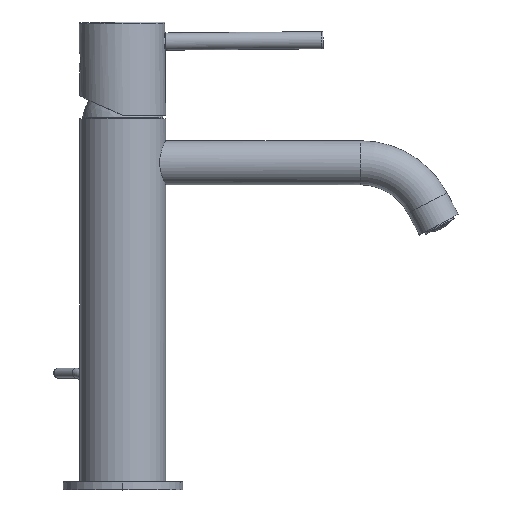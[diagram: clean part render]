
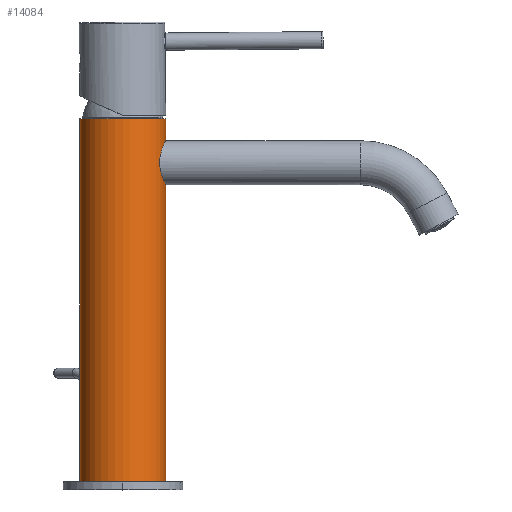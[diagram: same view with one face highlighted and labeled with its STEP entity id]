
A CAD part, top view. The second image highlights one B-rep face of the part: STEP entity #14084.
In plain terms, the highlighted cylindrical face has radius 17.5 mm (diameter 35 mm), a partial arc.
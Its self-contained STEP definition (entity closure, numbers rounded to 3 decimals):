
#1=CARTESIAN_POINT('',(0.,2.,0.));
#2=DIRECTION('',(0.,1.,0.));
#3=DIRECTION('',(-1.,0.,0.));
#4=AXIS2_PLACEMENT_3D('',#1,#2,#3);
#6=CARTESIAN_POINT('',(0.,150.,0.));
#7=DIRECTION('',(0.,1.,0.));
#8=DIRECTION('',(-1.,0.,0.));
#9=AXIS2_PLACEMENT_3D('',#6,#7,#8);
#11=CARTESIAN_POINT('',(17.5,141.,0.));
#12=CARTESIAN_POINT('',(17.5,141.,0.132));
#13=CARTESIAN_POINT('',(17.497,140.994,0.397));
#14=CARTESIAN_POINT('',(17.483,140.968,0.795));
#15=CARTESIAN_POINT('',(17.461,140.924,1.192));
#16=CARTESIAN_POINT('',(17.429,140.862,1.588));
#17=CARTESIAN_POINT('',(17.389,140.782,1.983));
#18=CARTESIAN_POINT('',(17.339,140.684,2.377));
#19=CARTESIAN_POINT('',(17.281,140.567,2.768));
#20=CARTESIAN_POINT('',(17.214,140.431,3.157));
#21=CARTESIAN_POINT('',(17.139,140.277,3.542));
#22=CARTESIAN_POINT('',(17.056,140.104,3.923));
#23=CARTESIAN_POINT('',(16.965,139.911,4.299));
#24=CARTESIAN_POINT('',(16.867,139.698,4.669));
#25=CARTESIAN_POINT('',(16.763,139.467,5.031));
#26=CARTESIAN_POINT('',(16.652,139.216,5.385));
#27=CARTESIAN_POINT('',(16.537,138.946,5.729));
#28=CARTESIAN_POINT('',(16.418,138.658,6.061));
#29=CARTESIAN_POINT('',(16.297,138.354,6.379));
#30=CARTESIAN_POINT('',(16.175,138.033,6.683));
#31=CARTESIAN_POINT('',(16.053,137.699,6.971));
#32=CARTESIAN_POINT('',(15.933,137.351,7.241));
#33=CARTESIAN_POINT('',(15.816,136.993,7.492));
#34=CARTESIAN_POINT('',(15.704,136.626,7.724));
#35=CARTESIAN_POINT('',(15.598,136.252,7.936));
#36=CARTESIAN_POINT('',(15.498,135.873,8.128));
#37=CARTESIAN_POINT('',(15.407,135.49,8.299));
#38=CARTESIAN_POINT('',(15.324,135.103,8.451));
#39=CARTESIAN_POINT('',(15.251,134.716,8.584));
#40=CARTESIAN_POINT('',(15.186,134.328,8.697));
#41=CARTESIAN_POINT('',(15.131,133.939,8.792));
#42=CARTESIAN_POINT('',(15.087,133.551,8.868));
#43=CARTESIAN_POINT('',(15.052,133.163,8.927));
#44=CARTESIAN_POINT('',(15.027,132.775,8.969));
#45=CARTESIAN_POINT('',(15.012,132.387,8.994));
#46=CARTESIAN_POINT('',(15.007,132.,9.003));
#47=CARTESIAN_POINT('',(15.012,131.613,8.994));
#48=CARTESIAN_POINT('',(15.027,131.225,8.969));
#49=CARTESIAN_POINT('',(15.052,130.837,8.927));
#50=CARTESIAN_POINT('',(15.087,130.449,8.868));
#51=CARTESIAN_POINT('',(15.131,130.061,8.792));
#52=CARTESIAN_POINT('',(15.186,129.672,8.697));
#53=CARTESIAN_POINT('',(15.251,129.284,8.584));
#54=CARTESIAN_POINT('',(15.324,128.897,8.451));
#55=CARTESIAN_POINT('',(15.407,128.51,8.299));
#56=CARTESIAN_POINT('',(15.498,128.127,8.128));
#57=CARTESIAN_POINT('',(15.598,127.748,7.936));
#58=CARTESIAN_POINT('',(15.704,127.374,7.724));
#59=CARTESIAN_POINT('',(15.816,127.007,7.492));
#60=CARTESIAN_POINT('',(15.933,126.649,7.241));
#61=CARTESIAN_POINT('',(16.053,126.301,6.971));
#62=CARTESIAN_POINT('',(16.175,125.967,6.683));
#63=CARTESIAN_POINT('',(16.297,125.646,6.379));
#64=CARTESIAN_POINT('',(16.418,125.342,6.061));
#65=CARTESIAN_POINT('',(16.537,125.054,5.729));
#66=CARTESIAN_POINT('',(16.652,124.784,5.385));
#67=CARTESIAN_POINT('',(16.763,124.533,5.031));
#68=CARTESIAN_POINT('',(16.867,124.302,4.669));
#69=CARTESIAN_POINT('',(16.965,124.089,4.299));
#70=CARTESIAN_POINT('',(17.056,123.896,3.923));
#71=CARTESIAN_POINT('',(17.139,123.723,3.542));
#72=CARTESIAN_POINT('',(17.214,123.569,3.157));
#73=CARTESIAN_POINT('',(17.281,123.433,2.768));
#74=CARTESIAN_POINT('',(17.339,123.316,2.377));
#75=CARTESIAN_POINT('',(17.389,123.218,1.983));
#76=CARTESIAN_POINT('',(17.429,123.138,1.588));
#77=CARTESIAN_POINT('',(17.461,123.076,1.192));
#78=CARTESIAN_POINT('',(17.483,123.032,0.795));
#79=CARTESIAN_POINT('',(17.497,123.006,0.397));
#80=CARTESIAN_POINT('',(17.5,123.,0.132));
#81=CARTESIAN_POINT('',(17.5,123.,0.));
#149=DIRECTION('',(0.,-1.,0.));
#150=VECTOR('',#149,121.);
#151=CARTESIAN_POINT('',(17.5,123.,0.));
#152=LINE('',#151,#150);
#225=DIRECTION('',(0.,-1.,0.));
#226=VECTOR('',#225,9.);
#227=CARTESIAN_POINT('',(17.5,150.,0.));
#228=LINE('',#227,#226);
#234=DIRECTION('',(0.,-1.,0.));
#235=VECTOR('',#234,148.);
#236=CARTESIAN_POINT('',(-17.5,150.,0.));
#237=LINE('',#236,#235);
#12638=CARTESIAN_POINT('',(-17.5,150.,0.));
#12639=CARTESIAN_POINT('',(17.5,150.,0.));
#12640=VERTEX_POINT('',#12638);
#12641=VERTEX_POINT('',#12639);
#12654=VERTEX_POINT('',#11);
#12655=VERTEX_POINT('',#81);
#13647=CARTESIAN_POINT('',(-17.5,2.,0.));
#13648=CARTESIAN_POINT('',(17.5,2.,0.));
#13649=VERTEX_POINT('',#13647);
#13650=VERTEX_POINT('',#13648);
#14065=CARTESIAN_POINT('',(0.,-7.525,0.));
#14066=DIRECTION('',(0.,1.,0.));
#14067=DIRECTION('',(1.,0.,0.));
#14068=AXIS2_PLACEMENT_3D('',#14065,#14066,#14067);
#14069=CYLINDRICAL_SURFACE('',#14068,17.5);
#14071=ORIENTED_EDGE('',*,*,#14070,.F.);
#14073=ORIENTED_EDGE('',*,*,#14072,.F.);
#14075=ORIENTED_EDGE('',*,*,#14074,.T.);
#14077=ORIENTED_EDGE('',*,*,#14076,.T.);
#14079=ORIENTED_EDGE('',*,*,#14078,.T.);
#14081=ORIENTED_EDGE('',*,*,#14080,.T.);
#14082=EDGE_LOOP('',(#14071,#14073,#14075,#14077,#14079,#14081));
#14083=FACE_OUTER_BOUND('',#14082,.F.);
#14084=ADVANCED_FACE('',(#14083),#14069,.T.);
#5=CIRCLE('',#4,17.5);
#10=CIRCLE('',#9,17.5);
#82=B_SPLINE_CURVE_WITH_KNOTS('',3,(#11,#12,#13,#14,#15,#16,#17,#18,#19,#20,#21,
#22,#23,#24,#25,#26,#27,#28,#29,#30,#31,#32,#33,#34,#35,#36,#37,#38,#39,#40,#41,
#42,#43,#44,#45,#46,#47,#48,#49,#50,#51,#52,#53,#54,#55,#56,#57,#58,#59,#60,#61,
#62,#63,#64,#65,#66,#67,#68,#69,#70,#71,#72,#73,#74,#75,#76,#77,#78,#79,#80,
#81),.UNSPECIFIED.,.F.,.F.,(4,1,1,1,1,1,1,1,1,1,1,1,1,1,1,1,1,1,1,1,1,1,1,1,1,1,
1,1,1,1,1,1,1,1,1,1,1,1,1,1,1,1,1,1,1,1,1,1,1,1,1,1,1,1,1,1,1,1,1,1,1,1,1,1,1,1,
1,1,4),(0.,0.015,0.029,0.044,
0.059,0.074,0.088,0.103,
0.118,0.132,0.147,0.162,
0.176,0.191,0.206,0.221,
0.235,0.25,0.265,0.279,0.294,
0.309,0.324,0.338,0.353,
0.368,0.382,0.397,0.412,
0.426,0.441,0.456,0.471,
0.485,0.5,0.515,0.529,0.544,
0.559,0.574,0.588,0.603,
0.618,0.632,0.647,0.662,
0.676,0.691,0.706,0.721,
0.735,0.75,0.765,0.779,0.794,
0.809,0.824,0.838,0.853,
0.868,0.882,0.897,0.912,
0.926,0.941,0.956,0.971,
0.985,1.),.UNSPECIFIED.);
#14070=EDGE_CURVE('',#13649,#13650,#5,.T.);
#14072=EDGE_CURVE('',#12640,#13649,#237,.T.);
#14074=EDGE_CURVE('',#12640,#12641,#10,.T.);
#14076=EDGE_CURVE('',#12641,#12654,#228,.T.);
#14078=EDGE_CURVE('',#12654,#12655,#82,.T.);
#14080=EDGE_CURVE('',#12655,#13650,#152,.T.);
